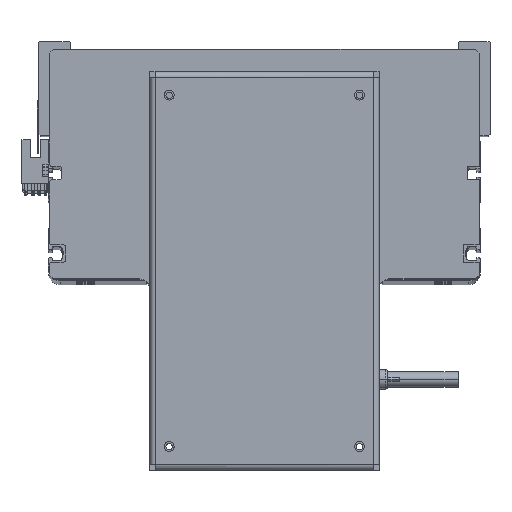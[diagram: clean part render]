
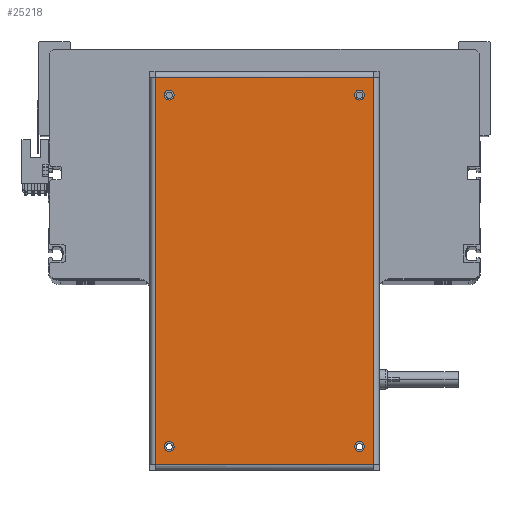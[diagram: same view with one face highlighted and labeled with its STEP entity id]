
A CAD part, top view. The second image highlights one B-rep face of the part: STEP entity #25218.
In plain terms, the highlighted planar face has unit normal (0, 0, 1).
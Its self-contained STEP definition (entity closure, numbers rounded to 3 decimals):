
#98 = CARTESIAN_POINT ( 'NONE',  ( 89.55, -48.5, 0. ) ) ;
#832 = DIRECTION ( 'NONE',  ( -1., 0., 0. ) ) ;
#969 = CIRCLE ( 'NONE', #6069, 2.5 ) ;
#1499 = EDGE_CURVE ( 'NONE', #30193, #11144, #29844, .T. ) ;
#1648 = CARTESIAN_POINT ( 'NONE',  ( 98.75, 58.5, 0. ) ) ;
#1995 = AXIS2_PLACEMENT_3D ( 'NONE', #98, #25118, #3490 ) ;
#2569 = CIRCLE ( 'NONE', #14596, 2.5 ) ;
#3002 = FACE_OUTER_BOUND ( 'NONE', #26241, .T. ) ;
#3237 = DIRECTION ( 'NONE',  ( 0., -1., 0. ) ) ;
#3277 = CARTESIAN_POINT ( 'NONE',  ( -89.55, -48.5, 0. ) ) ;
#3402 = ORIENTED_EDGE ( 'NONE', *, *, #19489, .T. ) ;
#3490 = DIRECTION ( 'NONE',  ( 1., 0., 0. ) ) ;
#5444 = ORIENTED_EDGE ( 'NONE', *, *, #27556, .T. ) ;
#5693 = VECTOR ( 'NONE', #3237, 1000. ) ;
#5739 = ORIENTED_EDGE ( 'NONE', *, *, #33514, .F. ) ;
#5928 = VERTEX_POINT ( 'NONE', #26237 ) ;
#5930 = DIRECTION ( 'NONE',  ( 0., 0., 1. ) ) ;
#6020 = ORIENTED_EDGE ( 'NONE', *, *, #35411, .F. ) ;
#6069 = AXIS2_PLACEMENT_3D ( 'NONE', #27035, #8123, #17650 ) ;
#6627 = DIRECTION ( 'NONE',  ( 0., 0., 1. ) ) ;
#6694 = CARTESIAN_POINT ( 'NONE',  ( 92.05, 48.5, 0. ) ) ;
#8123 = DIRECTION ( 'NONE',  ( 0., 0., 1. ) ) ;
#8764 = VERTEX_POINT ( 'NONE', #36265 ) ;
#8849 = FACE_BOUND ( 'NONE', #27691, .T. ) ;
#9201 = CARTESIAN_POINT ( 'NONE',  ( -89.55, 48.5, 0. ) ) ;
#9403 = ORIENTED_EDGE ( 'NONE', *, *, #22659, .F. ) ;
#9424 = ORIENTED_EDGE ( 'NONE', *, *, #29787, .T. ) ;
#9845 = DIRECTION ( 'NONE',  ( 0., 0., 1. ) ) ;
#10143 = CARTESIAN_POINT ( 'NONE',  ( 98.65, -55.6, 0. ) ) ;
#11144 = VERTEX_POINT ( 'NONE', #6694 ) ;
#11179 = CARTESIAN_POINT ( 'NONE',  ( -92.05, 48.5, 0. ) ) ;
#11323 = FACE_BOUND ( 'NONE', #14742, .T. ) ;
#11591 = AXIS2_PLACEMENT_3D ( 'NONE', #9201, #5930, #27966 ) ;
#11640 = DIRECTION ( 'NONE',  ( 1., 0., 0. ) ) ;
#12007 = ORIENTED_EDGE ( 'NONE', *, *, #1499, .F. ) ;
#12074 = CIRCLE ( 'NONE', #1995, 2.5 ) ;
#12186 = ORIENTED_EDGE ( 'NONE', *, *, #34199, .T. ) ;
#12410 = AXIS2_PLACEMENT_3D ( 'NONE', #24047, #30330, #11640 ) ;
#12700 = CARTESIAN_POINT ( 'NONE',  ( -98.65, 55.6, 0. ) ) ;
#13334 = CIRCLE ( 'NONE', #18928, 2.5 ) ;
#14012 = PLANE ( 'NONE',  #22193 ) ;
#14285 = DIRECTION ( 'NONE',  ( 0., 0., 1. ) ) ;
#14596 = AXIS2_PLACEMENT_3D ( 'NONE', #3277, #9845, #16442 ) ;
#14742 = EDGE_LOOP ( 'NONE', ( #23023, #12007 ) ) ;
#15167 = VERTEX_POINT ( 'NONE', #18154 ) ;
#16191 = EDGE_CURVE ( 'NONE', #15167, #5928, #12074, .T. ) ;
#16235 = FACE_BOUND ( 'NONE', #28444, .T. ) ;
#16442 = DIRECTION ( 'NONE',  ( 1., 0., 0. ) ) ;
#17415 = VERTEX_POINT ( 'NONE', #23239 ) ;
#17417 = VECTOR ( 'NONE', #21860, 1000. ) ;
#17580 = CARTESIAN_POINT ( 'NONE',  ( -89.55, -48.5, 0. ) ) ;
#17650 = DIRECTION ( 'NONE',  ( 1., 0., 0. ) ) ;
#18154 = CARTESIAN_POINT ( 'NONE',  ( 92.05, -48.5, 0. ) ) ;
#18484 = LINE ( 'NONE', #12700, #5693 ) ;
#18740 = CARTESIAN_POINT ( 'NONE',  ( -87.05, 48.5, 0. ) ) ;
#18928 = AXIS2_PLACEMENT_3D ( 'NONE', #17580, #14285, #27115 ) ;
#19019 = DIRECTION ( 'NONE',  ( 1., 0., 0. ) ) ;
#19489 = EDGE_CURVE ( 'NONE', #34506, #8764, #24325, .T. ) ;
#19697 = FACE_BOUND ( 'NONE', #27620, .T. ) ;
#21424 = CIRCLE ( 'NONE', #27785, 2.5 ) ;
#21860 = DIRECTION ( 'NONE',  ( 1., 0., 0. ) ) ;
#21884 = AXIS2_PLACEMENT_3D ( 'NONE', #25380, #6627, #19019 ) ;
#22193 = AXIS2_PLACEMENT_3D ( 'NONE', #1648, #29028, #832 ) ;
#22659 = EDGE_CURVE ( 'NONE', #32374, #36032, #13334, .T. ) ;
#23023 = ORIENTED_EDGE ( 'NONE', *, *, #24462, .F. ) ;
#23035 = VECTOR ( 'NONE', #35299, 1000. ) ;
#23210 = CARTESIAN_POINT ( 'NONE',  ( 98.75, 55.6, 0. ) ) ;
#23239 = CARTESIAN_POINT ( 'NONE',  ( 98.65, 55.6, 0. ) ) ;
#24022 = LINE ( 'NONE', #23210, #23035 ) ;
#24047 = CARTESIAN_POINT ( 'NONE',  ( 89.55, 48.5, 0. ) ) ;
#24325 = LINE ( 'NONE', #40334, #17417 ) ;
#24462 = EDGE_CURVE ( 'NONE', #11144, #30193, #36006, .T. ) ;
#24610 = CARTESIAN_POINT ( 'NONE',  ( -98.65, -55.6, 0. ) ) ;
#25118 = DIRECTION ( 'NONE',  ( 0., 0., 1. ) ) ;
#25218 = ADVANCED_FACE ( 'NONE', ( #8849, #16235, #19697, #11323, #3002 ), #14012, .F. ) ;
#25380 = CARTESIAN_POINT ( 'NONE',  ( 89.55, 48.5, 0. ) ) ;
#26237 = CARTESIAN_POINT ( 'NONE',  ( 87.05, -48.5, 0. ) ) ;
#26241 = EDGE_LOOP ( 'NONE', ( #9424, #3402, #12186, #5444 ) ) ;
#27035 = CARTESIAN_POINT ( 'NONE',  ( -89.55, 48.5, 0. ) ) ;
#27115 = DIRECTION ( 'NONE',  ( 1., 0., 0. ) ) ;
#27556 = EDGE_CURVE ( 'NONE', #17415, #28860, #24022, .T. ) ;
#27620 = EDGE_LOOP ( 'NONE', ( #34918, #33606 ) ) ;
#27691 = EDGE_LOOP ( 'NONE', ( #37804, #9403 ) ) ;
#27785 = AXIS2_PLACEMENT_3D ( 'NONE', #28067, #31440, #40710 ) ;
#27966 = DIRECTION ( 'NONE',  ( 1., 0., 0. ) ) ;
#28067 = CARTESIAN_POINT ( 'NONE',  ( 89.55, -48.5, 0. ) ) ;
#28433 = CIRCLE ( 'NONE', #11591, 2.5 ) ;
#28444 = EDGE_LOOP ( 'NONE', ( #6020, #5739 ) ) ;
#28463 = VECTOR ( 'NONE', #38774, 1000. ) ;
#28860 = VERTEX_POINT ( 'NONE', #31463 ) ;
#29028 = DIRECTION ( 'NONE',  ( 0., 0., -1. ) ) ;
#29787 = EDGE_CURVE ( 'NONE', #28860, #34506, #18484, .T. ) ;
#29844 = CIRCLE ( 'NONE', #12410, 2.5 ) ;
#30193 = VERTEX_POINT ( 'NONE', #38106 ) ;
#30330 = DIRECTION ( 'NONE',  ( 0., 0., 1. ) ) ;
#31440 = DIRECTION ( 'NONE',  ( 0., 0., 1. ) ) ;
#31463 = CARTESIAN_POINT ( 'NONE',  ( -98.65, 55.6, 0. ) ) ;
#32374 = VERTEX_POINT ( 'NONE', #33770 ) ;
#32855 = VERTEX_POINT ( 'NONE', #18740 ) ;
#33514 = EDGE_CURVE ( 'NONE', #39042, #32855, #969, .T. ) ;
#33606 = ORIENTED_EDGE ( 'NONE', *, *, #36726, .F. ) ;
#33770 = CARTESIAN_POINT ( 'NONE',  ( -92.05, -48.5, 0. ) ) ;
#34199 = EDGE_CURVE ( 'NONE', #8764, #17415, #36820, .T. ) ;
#34506 = VERTEX_POINT ( 'NONE', #24610 ) ;
#34918 = ORIENTED_EDGE ( 'NONE', *, *, #16191, .F. ) ;
#35299 = DIRECTION ( 'NONE',  ( -1., 0., 0. ) ) ;
#35411 = EDGE_CURVE ( 'NONE', #32855, #39042, #28433, .T. ) ;
#35858 = CARTESIAN_POINT ( 'NONE',  ( -87.05, -48.5, 0. ) ) ;
#36006 = CIRCLE ( 'NONE', #21884, 2.5 ) ;
#36032 = VERTEX_POINT ( 'NONE', #35858 ) ;
#36265 = CARTESIAN_POINT ( 'NONE',  ( 98.65, -55.6, 0. ) ) ;
#36726 = EDGE_CURVE ( 'NONE', #5928, #15167, #21424, .T. ) ;
#36820 = LINE ( 'NONE', #10143, #28463 ) ;
#37804 = ORIENTED_EDGE ( 'NONE', *, *, #38806, .F. ) ;
#38106 = CARTESIAN_POINT ( 'NONE',  ( 87.05, 48.5, 0. ) ) ;
#38774 = DIRECTION ( 'NONE',  ( 0., 1., 0. ) ) ;
#38806 = EDGE_CURVE ( 'NONE', #36032, #32374, #2569, .T. ) ;
#39042 = VERTEX_POINT ( 'NONE', #11179 ) ;
#40334 = CARTESIAN_POINT ( 'NONE',  ( -98.75, -55.6, 0. ) ) ;
#40710 = DIRECTION ( 'NONE',  ( 1., 0., 0. ) ) ;
